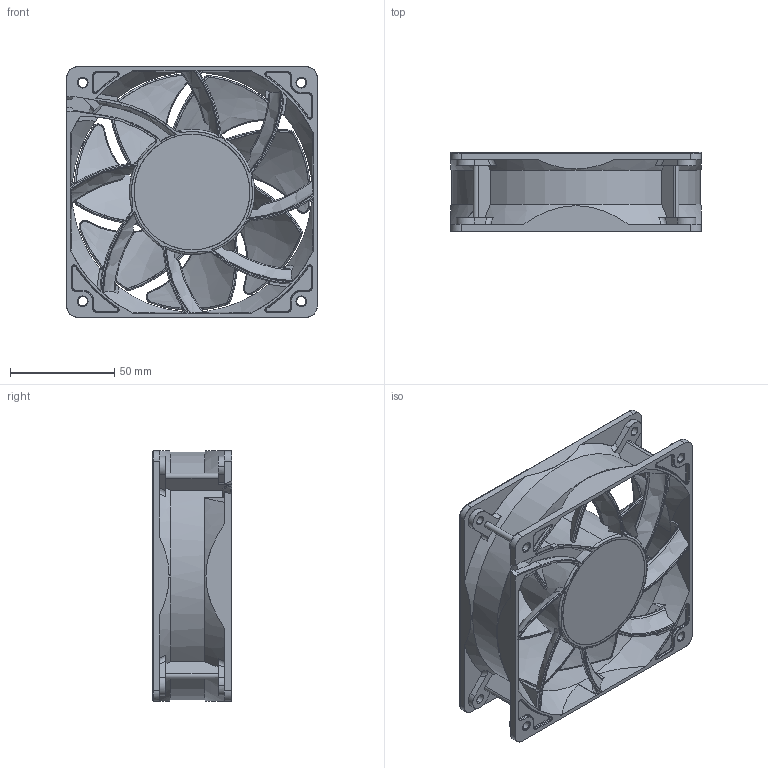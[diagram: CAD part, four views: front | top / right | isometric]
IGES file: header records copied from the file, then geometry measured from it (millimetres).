
Start section: SolidWorks IGES file using analytic representation for surfaces
Bounding box: 120 x 38 x 120 mm (x, y, z)
Surface area: 78054 mm2 (no closed solid volume)
Topology: 0 solids, 0 shells, 956 faces, 9630 edges, 9607 vertices
Faces by surface type: bspline 586, revolution 370
